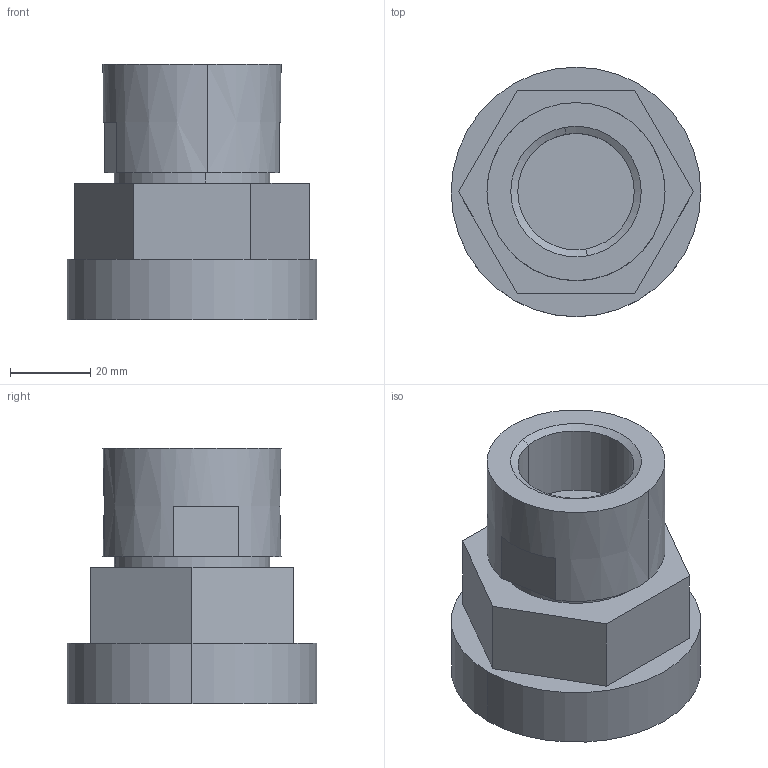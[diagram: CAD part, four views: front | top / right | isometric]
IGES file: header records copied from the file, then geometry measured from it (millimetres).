
Start section: SolidWorks IGES file using analytic representation for surfaces
Global section: file name: S:\Product Visuals\Pumps to be Defeatured\140 fittings\FITTING ASSEMBLIES\DEFEATURED\top-out\16-fnpt-top-out.IGS; native system: SolidWorks 2012; preprocessor: SolidWorks 2012; author: rachel.dressel; date: 121203.142346; units: inch
Bounding box: 62.33 x 62.33 x 63.91 mm (x, y, z)
Volume: 120779.4 mm3; surface area: 18927.1 mm2
Topology: 1 solids, 1 shells, 26 faces, 58 edges, 38 vertices
Faces by surface type: plane 16, revolution 10
